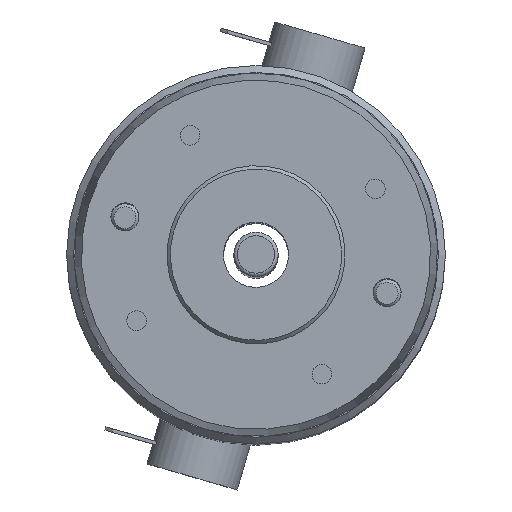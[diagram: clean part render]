
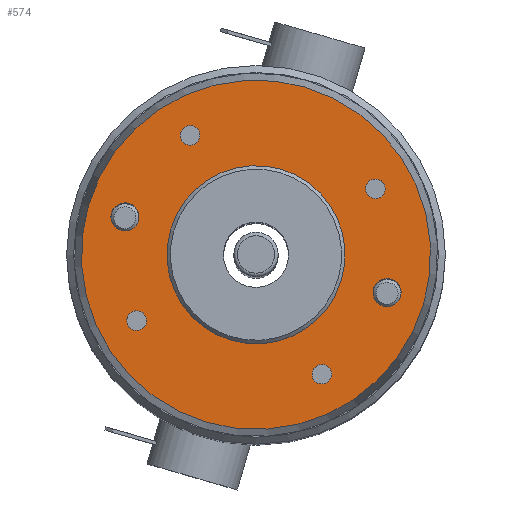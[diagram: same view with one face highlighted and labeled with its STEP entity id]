
A CAD part, top view. The second image highlights one B-rep face of the part: STEP entity #574.
In plain terms, the highlighted planar face has unit normal (0, 0, 1).
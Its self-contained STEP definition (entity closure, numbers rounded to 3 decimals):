
#297=CARTESIAN_POINT('',(-13.75,15.15,5.0));
#298=VERTEX_POINT('',#297);
#299=CARTESIAN_POINT('',(-13.75,13.75,5.0));
#300=DIRECTION('',(0.0,0.0,-1.0));
#301=DIRECTION('',(0.0,1.0,0.0));
#302=AXIS2_PLACEMENT_3D('',#299,#300,#301);
#303=CIRCLE('',#302,1.4);
#304=EDGE_CURVE('',#298,#298,#303,.T.);
#325=CARTESIAN_POINT('',(-15.15,-13.75,5.0));
#326=VERTEX_POINT('',#325);
#327=CARTESIAN_POINT('',(-13.75,-13.75,5.0));
#328=DIRECTION('',(0.0,0.0,-1.0));
#329=DIRECTION('',(-1.0,0.0,0.0));
#330=AXIS2_PLACEMENT_3D('',#327,#328,#329);
#331=CIRCLE('',#330,1.4);
#332=EDGE_CURVE('',#326,#326,#331,.T.);
#353=CARTESIAN_POINT('',(13.75,-15.15,5.0));
#354=VERTEX_POINT('',#353);
#355=CARTESIAN_POINT('',(13.75,-13.75,5.0));
#356=DIRECTION('',(0.0,0.0,-1.0));
#357=DIRECTION('',(0.0,-1.0,0.0));
#358=AXIS2_PLACEMENT_3D('',#355,#356,#357);
#359=CIRCLE('',#358,1.4);
#360=EDGE_CURVE('',#354,#354,#359,.T.);
#381=CARTESIAN_POINT('',(15.15,13.75,5.0));
#382=VERTEX_POINT('',#381);
#383=CARTESIAN_POINT('',(13.75,13.75,5.0));
#384=DIRECTION('',(0.0,0.0,-1.0));
#385=DIRECTION('',(1.0,0.0,0.0));
#386=AXIS2_PLACEMENT_3D('',#383,#384,#385);
#387=CIRCLE('',#386,1.4);
#388=EDGE_CURVE('',#382,#382,#387,.T.);
#409=CARTESIAN_POINT('',(21.445,0.,5.0));
#410=VERTEX_POINT('',#409);
#411=CARTESIAN_POINT('',(19.445,0.0,5.0));
#412=DIRECTION('',(0.0,0.0,-1.0));
#413=DIRECTION('',(-1.0,0.0,0.0));
#414=AXIS2_PLACEMENT_3D('',#411,#412,#413);
#415=CIRCLE('',#414,2.0);
#416=EDGE_CURVE('',#410,#410,#415,.T.);
#437=CARTESIAN_POINT('',(-17.445,0.,5.0));
#438=VERTEX_POINT('',#437);
#439=CARTESIAN_POINT('',(-19.445,0.0,5.0));
#440=DIRECTION('',(0.0,0.0,-1.0));
#441=DIRECTION('',(-1.0,0.0,0.0));
#442=AXIS2_PLACEMENT_3D('',#439,#440,#441);
#443=CIRCLE('',#442,2.0);
#444=EDGE_CURVE('',#438,#438,#443,.T.);
#510=CARTESIAN_POINT('',(12.7,0.,5.0));
#511=VERTEX_POINT('',#510);
#512=CARTESIAN_POINT('',(0.0,0.0,5.0));
#513=DIRECTION('',(0.0,0.0,-1.0));
#514=DIRECTION('',(-1.0,0.0,0.0));
#515=AXIS2_PLACEMENT_3D('',#512,#513,#514);
#516=CIRCLE('',#515,12.7);
#517=EDGE_CURVE('',#511,#511,#516,.T.);
#537=CARTESIAN_POINT('',(0.0,0.0,5.0));
#538=DIRECTION('',(0.0,0.0,-1.0));
#539=DIRECTION('',(-1.0,0.0,0.0));
#540=AXIS2_PLACEMENT_3D('',#537,#538,#539);
#541=PLANE('',#540);
#542=CARTESIAN_POINT('',(-24.9,0.0,5.0));
#543=VERTEX_POINT('',#542);
#544=CARTESIAN_POINT('',(0.0,0.0,5.0));
#545=DIRECTION('',(0.0,0.0,-1.0));
#546=DIRECTION('',(-1.0,0.0,0.0));
#547=AXIS2_PLACEMENT_3D('',#544,#545,#546);
#548=CIRCLE('',#547,24.9);
#549=EDGE_CURVE('',#543,#543,#548,.T.);
#550=ORIENTED_EDGE('',*,*,#549,.F.);
#551=EDGE_LOOP('',(#550));
#552=FACE_OUTER_BOUND('',#551,.T.);
#553=ORIENTED_EDGE('',*,*,#304,.T.);
#554=EDGE_LOOP('',(#553));
#555=FACE_BOUND('',#554,.T.);
#556=ORIENTED_EDGE('',*,*,#332,.T.);
#557=EDGE_LOOP('',(#556));
#558=FACE_BOUND('',#557,.T.);
#559=ORIENTED_EDGE('',*,*,#360,.T.);
#560=EDGE_LOOP('',(#559));
#561=FACE_BOUND('',#560,.T.);
#562=ORIENTED_EDGE('',*,*,#388,.T.);
#563=EDGE_LOOP('',(#562));
#564=FACE_BOUND('',#563,.T.);
#565=ORIENTED_EDGE('',*,*,#416,.T.);
#566=EDGE_LOOP('',(#565));
#567=FACE_BOUND('',#566,.T.);
#568=ORIENTED_EDGE('',*,*,#444,.T.);
#569=EDGE_LOOP('',(#568));
#570=FACE_BOUND('',#569,.T.);
#571=ORIENTED_EDGE('',*,*,#517,.T.);
#572=EDGE_LOOP('',(#571));
#573=FACE_BOUND('',#572,.T.);
#574=ADVANCED_FACE('',(#552,#555,#558,#561,#564,#567,#570,#573),#541,.F.);
